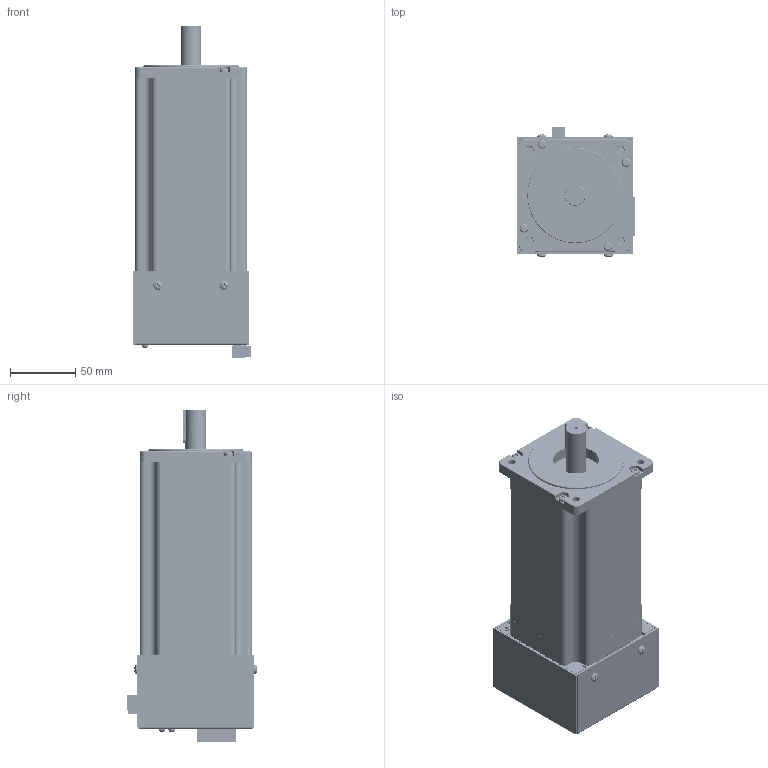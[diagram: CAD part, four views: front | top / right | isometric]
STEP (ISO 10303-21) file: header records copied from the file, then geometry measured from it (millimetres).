
FILE_DESCRIPTION (( 'STEP AP214' ), '1' );
FILE_NAME ('34MD314S.STEP', '2017-12-04T17:44:59', ( '' ), ( '' ), 'SwSTEP 2.0', 'SolidWorks 2017', '' );
FILE_SCHEMA (( 'AUTOMOTIVE_DESIGN' ));
Length unit declared in the file: millimetre
Products named in the file (38): 5socket head cap screw_am_B18.3.1M - 4 x 0.7 x 8 Hex SHCS -- 8SHX; 11pan cross head_ai_CR-PHMS 0.112-40x0.25x0.25-S; 055flat head screw_ai_CR-FHMS 0.138-32x0.375x0.375-S; WSH-KE3049; Base Plate, 34MD Series; TRS-IRFB4710PBF; 34YXXXS-LW4-01 with connector_34Y314S-LW4-01; 1757475; Standoff, 6-32x.250_STD-6321.0H; CON-6404284; STD-63212H-M-F_STD-63212H; 34YXXXS-LW4-01 for 34MD Series_34Y314S-LW8; 11pan cross head_ai_CR-PHMS 0.138-32x0.25x0.25-S; 1754449; Standoff, 6-32x.250_STD-63212H; 1754520; CAP-0221; Cover, 34MD Series; 34MD314S; CON-0069; AA4810-1PCB; LED-SPR5731_LED-SPR5731-GRN; 1755558; LED-LTM Series_LED-LTM380; CON-0068; LED-LTM Series_LED-LTM420; POT-PT10LV10K; RES-3W-.05; LED-SPR5731_LED-SPR5731-YEL; Heat Sink, 34MD Series; LED-LTM Series_LED-LTM250; 11pan cross head_ai_CR-PHMS 0.138-32x0.5x0.5-S; CON-929834-01-03; AA4810APCB; Standoff, 6-32x.250, ROUND_6-32 x .250; AA4811B-1PCB; AA4811BPCB; CON-0050
Assembly tree (85 placements, depth 3):
  34MD314S
    34YXXXS-LW4-01 with connector_34Y314S-LW4-01
      34YXXXS-LW4-01 for 34MD Series_34Y314S-LW8
      CON-6404284
    Base Plate, 34MD Series
    055flat head screw_ai_CR-FHMS 0.138-32x0.375x0.375-S  x4
    5socket head cap screw_am_B18.3.1M - 4 x 0.7 x 8 Hex SHCS -- 8SHX  x4
    AA4811B-1PCB
      AA4811BPCB
      Standoff, 6-32x.250, ROUND_6-32 x .250  x2
      11pan cross head_ai_CR-PHMS 0.138-32x0.5x0.5-S  x2
      Heat Sink, 34MD Series
      RES-3W-.05  x4
      LED-LTM Series_LED-LTM420
      LED-LTM Series_LED-LTM380
      LED-SPR5731_LED-SPR5731-GRN
      CON-0069
      CAP-0221  x2
      Standoff, 6-32x.250_STD-63212H  x2
      11pan cross head_ai_CR-PHMS 0.138-32x0.25x0.25-S  x2
      STD-63212H-M-F_STD-63212H  x2
      Standoff, 6-32x.250_STD-6321.0H  x2
      1757475
      TRS-IRFB4710PBF  x9
      WSH-KE3049  x9
      11pan cross head_ai_CR-PHMS 0.112-40x0.25x0.25-S  x9
      CON-0050
    AA4810-1PCB
      AA4810APCB
      CON-929834-01-03
      LED-LTM Series_LED-LTM250
      LED-SPR5731_LED-SPR5731-YEL
      POT-PT10LV10K
      CON-0068
      1755558
    11pan cross head_ai_CR-PHMS 0.138-32x0.25x0.25-S  x8
    Cover, 34MD Series
    1754520
    1754449
Bounding box: 90.9 x 100.05 x 254.06 mm (x, y, z)
Volume: 1184258.8 mm3; surface area: 208125.6 mm2
Topology: 82 solids, 82 shells, 7838 faces, 19725 edges, 12455 vertices
Faces by surface type: plane 4216, cylinder 1579, cone 1337, bspline 555, torus 107, sphere 44
Entity records: 235877 total; most frequent: CARTESIAN_POINT 61280, ORIENTED_EDGE 26250, DIRECTION 23804, EDGE_CURVE 13125, VECTOR 9444, LINE 9444, VERTEX_POINT 8378, AXIS2_PLACEMENT_3D 7180
